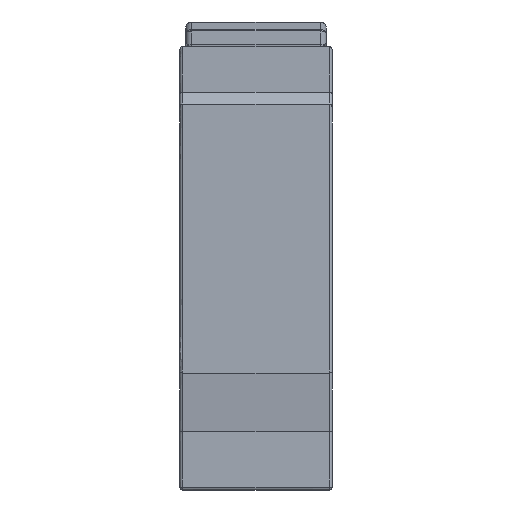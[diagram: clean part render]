
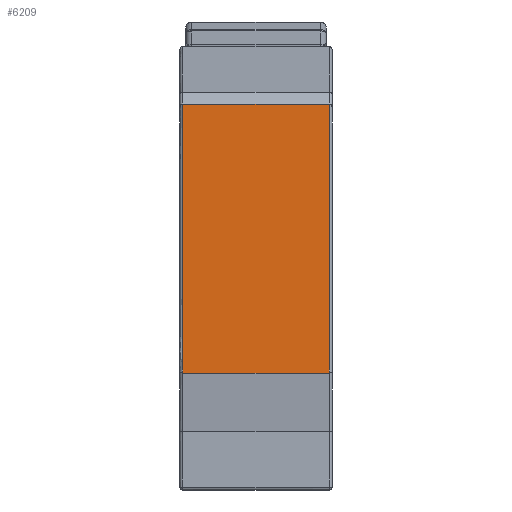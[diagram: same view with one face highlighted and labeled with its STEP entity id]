
A CAD part, front view. The second image highlights one B-rep face of the part: STEP entity #6209.
In plain terms, the highlighted planar face has unit normal (0, -1, 0).
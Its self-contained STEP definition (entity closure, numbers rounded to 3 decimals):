
#102=PLANE('',#6636);
#670=FACE_OUTER_BOUND('',#1054,.T.);
#1054=EDGE_LOOP('',(#4401,#4402,#4403,#4404));
#1577=LINE('',#8280,#2165);
#1630=LINE('',#8527,#2218);
#1632=LINE('',#8531,#2220);
#1633=LINE('',#8532,#2221);
#2165=VECTOR('',#6956,10.);
#2218=VECTOR('',#7131,10.);
#2220=VECTOR('',#7135,10.);
#2221=VECTOR('',#7136,10.);
#2753=VERTEX_POINT('',#8272);
#2755=VERTEX_POINT('',#8278);
#2811=VERTEX_POINT('',#8526);
#2812=VERTEX_POINT('',#8530);
#3353=EDGE_CURVE('',#2755,#2753,#1577,.T.);
#3440=EDGE_CURVE('',#2811,#2753,#1630,.T.);
#3442=EDGE_CURVE('',#2812,#2755,#1632,.T.);
#3443=EDGE_CURVE('',#2811,#2812,#1633,.T.);
#4401=ORIENTED_EDGE('',*,*,#3353,.F.);
#4402=ORIENTED_EDGE('',*,*,#3442,.F.);
#4403=ORIENTED_EDGE('',*,*,#3443,.F.);
#4404=ORIENTED_EDGE('',*,*,#3440,.T.);
#6209=ADVANCED_FACE('',(#670),#102,.T.);
#6636=AXIS2_PLACEMENT_3D('',#8529,#7133,#7134);
#6956=DIRECTION('',(0.,0.,-1.));
#7131=DIRECTION('',(1.,0.,0.));
#7133=DIRECTION('center_axis',(0.,-1.,0.));
#7134=DIRECTION('ref_axis',(0.,0.,-1.));
#7135=DIRECTION('',(1.,0.,0.));
#7136=DIRECTION('',(0.,0.,1.));
#8272=CARTESIAN_POINT('',(25.5,-43.857,-44.182));
#8278=CARTESIAN_POINT('',(25.5,-43.857,1.802));
#8280=CARTESIAN_POINT('',(25.5,-43.857,-13.57));
#8526=CARTESIAN_POINT('',(0.5,-43.857,-44.182));
#8527=CARTESIAN_POINT('',(0.,-43.857,-44.182));
#8529=CARTESIAN_POINT('Origin',(0.,-43.857,1.802));
#8530=CARTESIAN_POINT('',(0.5,-43.857,1.802));
#8531=CARTESIAN_POINT('',(0.,-43.857,1.802));
#8532=CARTESIAN_POINT('',(0.5,-43.857,-13.57));
